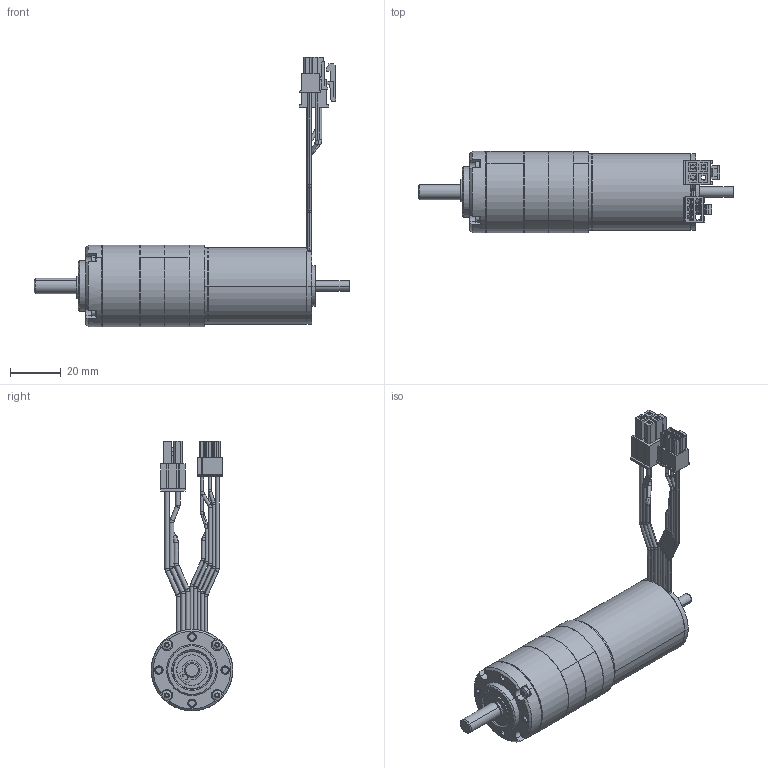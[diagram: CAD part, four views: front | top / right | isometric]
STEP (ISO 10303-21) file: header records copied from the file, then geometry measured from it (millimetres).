
FILE_DESCRIPTION (( 'STEP AP214' ), '1' );
FILE_NAME ('EC-i30+PM32-3 étages.STEP', '2019-11-12T14:35:21', ( '' ), ( '' ), 'SwSTEP 2.0', 'SolidWorks 2018', '' );
FILE_SCHEMA (( 'AUTOMOTIVE_DESIGN' ));
Length unit declared in the file: millimetre
Products named in the file (21): 8011610_ANLAUFSCHEIBE_G_1ST_2_1; P8209_8100249_ZAHNKRANZ_1ST_2_1; GK235_POS42_DICHTRING_2_1; 8101913_LAGERFLANSCH_2_1; EC-i30+PM32-3 étages; DIN471_SR_06X00_7_2_1; GK545_POS23_4_ABTRIEB_LK4_KPL_2_1; P8209_8100249_ZAHNKRANZ_2 etages; D472_15X1_2_1; SCHRAUBEN_1232149_1; 8002481_MOTORRITZEL_Z17_1; PM32 pour ECMax30L_3 etages; GK545_POS22_ABTRIEB_ROHTEIL_AF0_2_1; GK235_POS13_LAGERBOLZEN_2_1; FLACHKOPFSCHRAUBE_M2X21_PRECOTE_2_1; DIN998_PS_6X12X0_5_2_1; D625-619_6-2Z_2_1; Coté sortie^PM32 pour ECMax30L_1; 1009218_1; Coté moteur^PM32 pour ECMax30L_1; 539481_EC-i30_45W_HighTorque
Assembly tree (34 placements, depth 5):
  EC-i30+PM32-3 étages
    PM32 pour ECMax30L_3 etages
      P8209_8100249_ZAHNKRANZ_1ST_2_1
      Coté sortie^PM32 pour ECMax30L_1
        8101913_LAGERFLANSCH_2_1
        D472_15X1_2_1
        D625-619_6-2Z_2_1  x2
        DIN998_PS_6X12X0_5_2_1  x2
        GK545_POS23_4_ABTRIEB_LK4_KPL_2_1
          GK545_POS22_ABTRIEB_ROHTEIL_AF0_2_1
          GK235_POS13_LAGERBOLZEN_2_1  x3
        DIN471_SR_06X00_7_2_1
        GK235_POS42_DICHTRING_2_1
        FLACHKOPFSCHRAUBE_M2X21_PRECOTE_2_1  x4
      Coté moteur^PM32 pour ECMax30L_1
        GK235_POS42_DICHTRING_2_1
        8011610_ANLAUFSCHEIBE_G_1ST_2_1
        8002481_MOTORRITZEL_Z17_1
      GK235_POS42_DICHTRING_2_1  x2
      SCHRAUBEN_1232149_1  x4
      1009218_1
      P8209_8100249_ZAHNKRANZ_2 etages  x2
    539481_EC-i30_45W_HighTorque
Bounding box: 123.95 x 32 x 105.86 mm (x, y, z)
Volume: 19544.5 mm3; surface area: 40711.3 mm2
Topology: 24 solids, 48 shells, 2240 faces, 6106 edges, 3960 vertices
Faces by surface type: plane 949, cylinder 931, cone 147, bspline 129, torus 80, sphere 4
Entity records: 77098 total; most frequent: CARTESIAN_POINT 14094, ORIENTED_EDGE 9516, DIRECTION 9516, EDGE_CURVE 4802, AXIS2_PLACEMENT_3D 3318, VERTEX_POINT 3126, LINE 2880, VECTOR 2880
